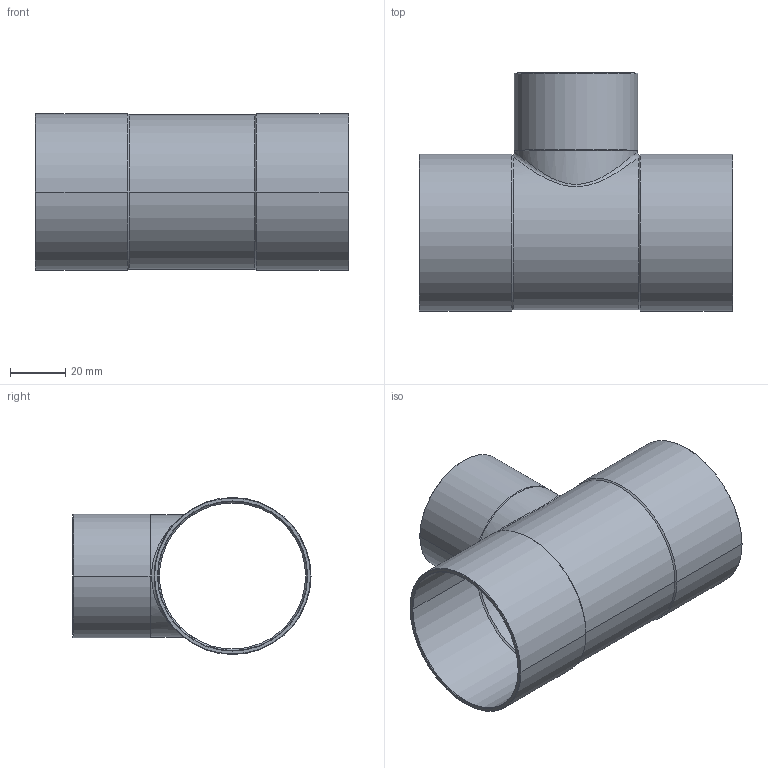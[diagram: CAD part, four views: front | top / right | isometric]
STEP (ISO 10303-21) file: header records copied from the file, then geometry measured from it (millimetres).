
FILE_DESCRIPTION((''),'2;1');
FILE_NAME('G:\Technics\CAD\Bauteile\15130\15130544254.stp','2005-11-02T10:19:57',('boden'),(''),'Autodesk Inventor 8','Autodesk Inventor 8','');
FILE_SCHEMA(('AUTOMOTIVE_DESIGN { 1 0 10303 214 1 1 1 1 }'));
Length unit declared in the file: millimetre
Products named in the file (1): 15130544254
Bounding box: 114 x 86.53 x 57.05 mm (x, y, z)
Volume: 33175.1 mm3; surface area: 46663.2 mm2
Topology: 1 solids, 1 shells, 49 faces, 112 edges, 64 vertices
Faces by surface type: cone 24, cylinder 20, plane 3, bspline 2
Entity records: 1898 total; most frequent: CARTESIAN_POINT 777, DIRECTION 238, ORIENTED_EDGE 224, EDGE_CURVE 112, AXIS2_PLACEMENT_3D 98, VERTEX_POINT 64, EDGE_LOOP 52, CIRCLE 50
